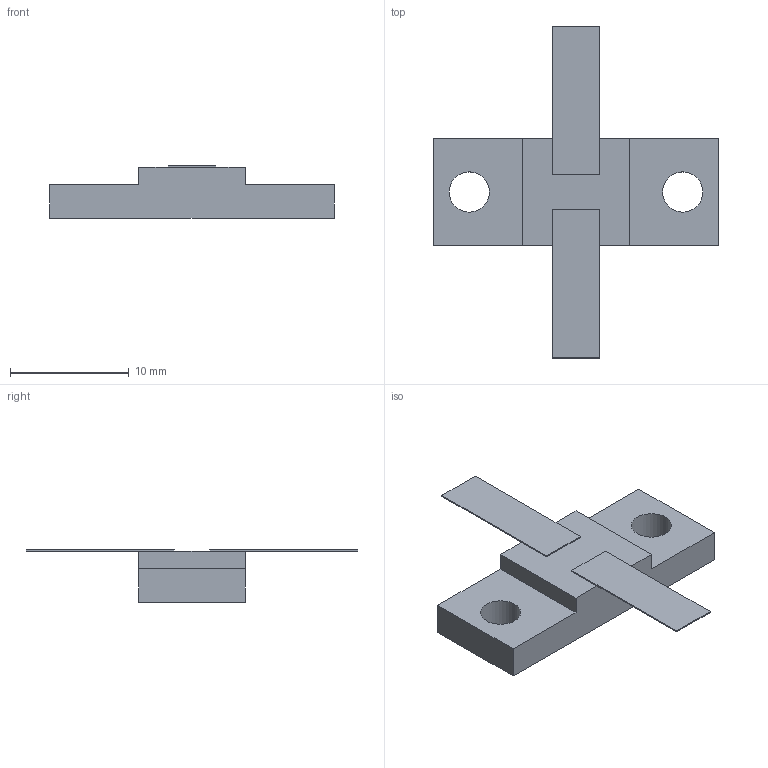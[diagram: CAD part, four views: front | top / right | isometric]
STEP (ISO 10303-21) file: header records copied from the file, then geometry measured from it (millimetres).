
FILE_DESCRIPTION(('STEP AP203'), '1');
FILE_NAME('Ð1-17-250', '', ('UNSPECIFIED'), ('UNSPECIFIED'), 'ASCON STEP Converter 1.6', 'ASCON Math Kernel', '');
FILE_SCHEMA(('CONFIG_CONTROL_DESIGN'));
Length unit declared in the file: millimetre
Bounding box: 24 x 28 x 4.4 mm (x, y, z)
Volume: 685.3 mm3; surface area: 862.3 mm2
Topology: 1 solids, 2 shells, 43 faces, 113 edges, 74 vertices
Faces by surface type: plane 37, cylinder 6
Full cylindrical faces by diameter (mm): 3.4 x2
Entity records: 1695 total; most frequent: CARTESIAN_POINT 229, ORIENTED_EDGE 222, DIRECTION 211, EDGE_CURVE 111, LINE 99, VECTOR 99, VERTEX_POINT 74, AXIS2_PLACEMENT_3D 56
